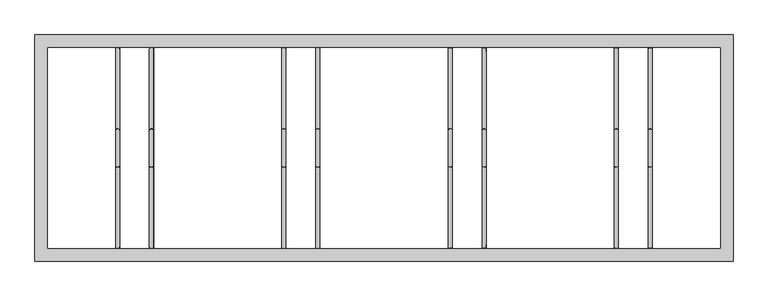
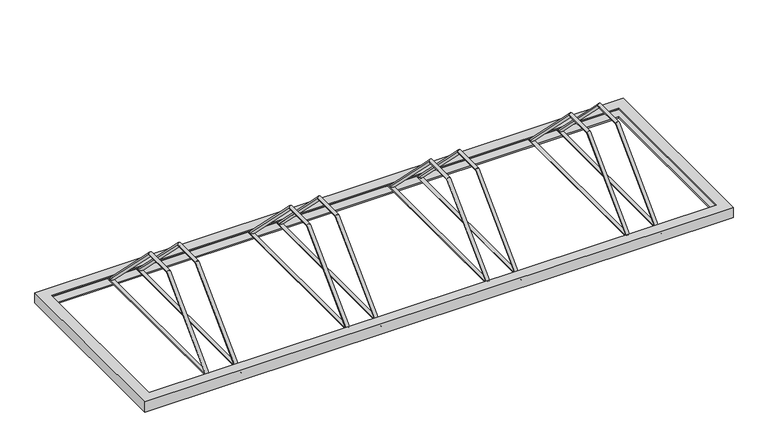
"""IFC4 building model written with IfcOpenShell, lengths in millimetres: furniture geometry, 6.4 Bicicletero chico : 6.4 Bicicletero chico."""

from ifc_helpers import new_model, si_unit, point, frame, frame_2d, origin, place, context, project, spatial, circle_curve, ellipse_curve, trimmed, segment, composite_curve, outline, extrude, faceted_brep, source, transform, mapped, element, save
from ifc_brep_helpers import plane_surface, cylinder_surface, advanced_brep


def furniture_a2313781(model_context):
    return source(origin(), model_context, "Body", "SolidModel", [
        advanced_brep(
        [(344.6360769, -637.8973593, 24.3383166), (356.6360769, -637.8973593, 24.3383166), (344.6360769, -395.3726807, 266.8629952), (356.6360769, -395.3726807, 266.8629952), (344.6360769, -285.3442008, 266.8629952), (356.6360769, -285.3442008, 266.8629952), (344.6360769, -43.1497206, 24.668515), (356.6360769, -43.1497206, 24.668515)],
        [
            (0, 1, circle_curve(frame((350.6360769, -637.8973593, 24.3383166), z_axis=(0.0, -0.7071067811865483, -0.7071067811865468), x_axis=(1.0, 0.0, 0.0)), 6.0)),
            (1, 0, circle_curve(frame((350.6360769, -637.8973593, 24.3383166), z_axis=(0.0, -0.7071067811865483, -0.7071067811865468), x_axis=(1.0, 0.0, 0.0)), 6.0)),
            (0, 2),
            (2, 3, ellipse_curve(frame((350.6360769, -395.3726807, 266.8629952), z_axis=(0.0, -0.9238795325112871, -0.38268343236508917), x_axis=(0.0, 0.38268343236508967, -0.923879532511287)), 6.4943532, 6.0)),
            (3, 1),
            (3, 2, ellipse_curve(frame((350.6360769, -395.3726807, 266.8629952), z_axis=(0.0, -0.9238795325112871, -0.38268343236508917), x_axis=(0.0, 0.38268343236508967, -0.923879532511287)), 6.4943532, 6.0)),
            (2, 4),
            (4, 5, ellipse_curve(frame((350.6360769, -285.3442008, 266.8629952), z_axis=(0.0, -0.9238795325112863, 0.382683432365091), x_axis=(0.0, -0.38268343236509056, -0.9238795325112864)), 6.4943532, 6.0)),
            (5, 3),
            (5, 4, ellipse_curve(frame((350.6360769, -285.3442008, 266.8629952), z_axis=(0.0, -0.9238795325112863, 0.382683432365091), x_axis=(0.0, -0.38268343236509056, -0.9238795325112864)), 6.4943532, 6.0)),
            (6, 7, circle_curve(frame((350.6360769, -43.1497206, 24.668515), z_axis=(0.0, 0.7071067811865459, -0.7071067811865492), x_axis=(1.0, 0.0, 0.0)), 6.0)),
            (7, 6, circle_curve(frame((350.6360769, -43.1497206, 24.668515), z_axis=(0.0, 0.7071067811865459, -0.7071067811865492), x_axis=(1.0, 0.0, 0.0)), 6.0)),
            (4, 6),
            (7, 5),
        ],
        [
            plane_surface(frame((106.3960769, -642.14, 28.5809573), z_axis=(0.0, -0.7071067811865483, -0.7071067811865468), x_axis=(1.0, 0.0, 0.0))),
            cylinder_surface(frame((350.6360769, -637.8973593, 24.3383166), z_axis=(0.0, -0.7071067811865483, -0.7071067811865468), x_axis=(1.0, 0.0, 0.0)), 6.0),
            cylinder_surface(frame((350.6360769, -397.8579621, 266.8629952), z_axis=(0.0, -1.0, 0.0), x_axis=(1.0, 0.0, 0.0)), 6.0),
            plane_surface(frame((106.3960769, -38.9070799, 28.9111557), z_axis=(0.0, 0.707106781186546, -0.7071067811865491), x_axis=(1.0, 0.0, 0.0))),
            cylinder_surface(frame((350.6360769, -287.1015601, 268.6203545), z_axis=(0.0, -0.7071067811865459, 0.7071067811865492), x_axis=(1.0, 0.0, 0.0)), 6.0),
        ],
        [
            (0, [[1, 2]]),
            (1, [[-1, 3, 4, 5]]),
            (1, [[-2, -5, 6, -3]]),
            (2, [[-4, 7, 8, 9]]),
            (2, [[-6, -9, 10, -7]]),
            (3, [[11, 12]]),
            (4, [[-8, 13, -12, 14]]),
            (4, [[-10, -14, -11, -13]]),
        ],
    ),
        advanced_brep(
        [(242.5, -637.8973593, 24.3383166), (254.5, -637.8973593, 24.3383166), (242.5, -395.3726807, 266.8629952), (254.5, -395.3726807, 266.8629952), (242.5, -285.3451581, 266.8629952), (254.5, -285.3451581, 266.8629952), (242.5, -43.1506779, 24.668515), (254.5, -43.1506779, 24.668515)],
        [
            (0, 1, circle_curve(frame((248.5, -637.8973593, 24.3383166), z_axis=(0.0, -0.7071067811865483, -0.7071067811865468), x_axis=(1.0, 0.0, 0.0)), 6.0)),
            (1, 0, circle_curve(frame((248.5, -637.8973593, 24.3383166), z_axis=(0.0, -0.7071067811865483, -0.7071067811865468), x_axis=(1.0, 0.0, 0.0)), 6.0)),
            (0, 2),
            (2, 3, ellipse_curve(frame((248.5, -395.3726807, 266.8629952), z_axis=(0.0, -0.9238795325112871, -0.38268343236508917), x_axis=(0.0, 0.38268343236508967, -0.923879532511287)), 6.4943532, 6.0)),
            (3, 1),
            (3, 2, ellipse_curve(frame((248.5, -395.3726807, 266.8629952), z_axis=(0.0, -0.9238795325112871, -0.38268343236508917), x_axis=(0.0, 0.38268343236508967, -0.923879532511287)), 6.4943532, 6.0)),
            (2, 4),
            (4, 5, ellipse_curve(frame((248.5, -285.3451581, 266.8629952), z_axis=(0.0, -0.9238795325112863, 0.382683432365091), x_axis=(0.0, -0.38268343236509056, -0.9238795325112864)), 6.4943532, 6.0)),
            (5, 3),
            (5, 4, ellipse_curve(frame((248.5, -285.3451581, 266.8629952), z_axis=(0.0, -0.9238795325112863, 0.382683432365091), x_axis=(0.0, -0.38268343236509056, -0.9238795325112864)), 6.4943532, 6.0)),
            (6, 7, circle_curve(frame((248.5, -43.1506779, 24.668515), z_axis=(0.0, 0.7071067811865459, -0.7071067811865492), x_axis=(1.0, 0.0, 0.0)), 6.0)),
            (7, 6, circle_curve(frame((248.5, -43.1506779, 24.668515), z_axis=(0.0, 0.7071067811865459, -0.7071067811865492), x_axis=(1.0, 0.0, 0.0)), 6.0)),
            (4, 6),
            (7, 5),
        ],
        [
            plane_surface(frame((4.26, -642.14, 28.5809573), z_axis=(0.0, -0.7071067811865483, -0.7071067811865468), x_axis=(1.0, 0.0, 0.0))),
            cylinder_surface(frame((248.5, -637.8973593, 24.3383166), z_axis=(0.0, -0.7071067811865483, -0.7071067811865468), x_axis=(1.0, 0.0, 0.0)), 6.0),
            cylinder_surface(frame((248.5, -397.8579621, 266.8629952), z_axis=(0.0, -1.0, 0.0), x_axis=(1.0, 0.0, 0.0)), 6.0),
            plane_surface(frame((4.26, -38.9080372, 28.9111557), z_axis=(0.0, 0.707106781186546, -0.7071067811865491), x_axis=(1.0, 0.0, 0.0))),
            cylinder_surface(frame((248.5, -287.1025174, 268.6203545), z_axis=(0.0, -0.7071067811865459, 0.7071067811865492), x_axis=(1.0, 0.0, 0.0)), 6.0),
        ],
        [
            (0, [[1, 2]]),
            (1, [[-1, 3, 4, 5]]),
            (1, [[-2, -5, 6, -3]]),
            (2, [[-4, 7, 8, 9]]),
            (2, [[-6, -9, 10, -7]]),
            (3, [[11, 12]]),
            (4, [[-8, 13, -12, 14]]),
            (4, [[-10, -14, -11, -13]]),
        ],
    ),
        advanced_brep(
        [(844.7721537, -637.8973593, 24.3383166), (856.7721537, -637.8973593, 24.3383166), (844.7721537, -395.3726807, 266.8629952), (856.7721537, -395.3726807, 266.8629952), (844.7721537, -285.3442008, 266.8629952), (856.7721537, -285.3442008, 266.8629952), (844.7721537, -43.1497206, 24.668515), (856.7721537, -43.1497206, 24.668515)],
        [
            (0, 1, circle_curve(frame((850.7721537, -637.8973593, 24.3383166), z_axis=(0.0, -0.7071067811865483, -0.7071067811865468), x_axis=(1.0, 0.0, 0.0)), 6.0)),
            (1, 0, circle_curve(frame((850.7721537, -637.8973593, 24.3383166), z_axis=(0.0, -0.7071067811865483, -0.7071067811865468), x_axis=(1.0, 0.0, 0.0)), 6.0)),
            (0, 2),
            (2, 3, ellipse_curve(frame((850.7721537, -395.3726807, 266.8629952), z_axis=(0.0, -0.9238795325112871, -0.38268343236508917), x_axis=(0.0, 0.38268343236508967, -0.923879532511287)), 6.4943532, 6.0)),
            (3, 1),
            (3, 2, ellipse_curve(frame((850.7721537, -395.3726807, 266.8629952), z_axis=(0.0, -0.9238795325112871, -0.38268343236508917), x_axis=(0.0, 0.38268343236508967, -0.923879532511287)), 6.4943532, 6.0)),
            (2, 4),
            (4, 5, ellipse_curve(frame((850.7721537, -285.3442008, 266.8629952), z_axis=(0.0, -0.9238795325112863, 0.382683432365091), x_axis=(0.0, -0.38268343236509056, -0.9238795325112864)), 6.4943532, 6.0)),
            (5, 3),
            (5, 4, ellipse_curve(frame((850.7721537, -285.3442008, 266.8629952), z_axis=(0.0, -0.9238795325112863, 0.382683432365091), x_axis=(0.0, -0.38268343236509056, -0.9238795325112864)), 6.4943532, 6.0)),
            (6, 7, circle_curve(frame((850.7721537, -43.1497206, 24.668515), z_axis=(0.0, 0.7071067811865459, -0.7071067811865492), x_axis=(1.0, 0.0, 0.0)), 6.0)),
            (7, 6, circle_curve(frame((850.7721537, -43.1497206, 24.668515), z_axis=(0.0, 0.7071067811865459, -0.7071067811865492), x_axis=(1.0, 0.0, 0.0)), 6.0)),
            (4, 6),
            (7, 5),
        ],
        [
            plane_surface(frame((606.5321537, -642.14, 28.5809573), z_axis=(0.0, -0.7071067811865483, -0.7071067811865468), x_axis=(1.0, 0.0, 0.0))),
            cylinder_surface(frame((850.7721537, -637.8973593, 24.3383166), z_axis=(0.0, -0.7071067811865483, -0.7071067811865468), x_axis=(1.0, 0.0, 0.0)), 6.0),
            cylinder_surface(frame((850.7721537, -397.8579621, 266.8629952), z_axis=(0.0, -1.0, 0.0), x_axis=(1.0, 0.0, 0.0)), 6.0),
            plane_surface(frame((606.5321537, -38.9070799, 28.9111557), z_axis=(0.0, 0.707106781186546, -0.7071067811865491), x_axis=(1.0, 0.0, 0.0))),
            cylinder_surface(frame((850.7721537, -287.1015601, 268.6203545), z_axis=(0.0, -0.7071067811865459, 0.7071067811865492), x_axis=(1.0, 0.0, 0.0)), 6.0),
        ],
        [
            (0, [[1, 2]]),
            (1, [[-1, 3, 4, 5]]),
            (1, [[-2, -5, 6, -3]]),
            (2, [[-4, 7, 8, 9]]),
            (2, [[-6, -9, 10, -7]]),
            (3, [[11, 12]]),
            (4, [[-8, 13, -12, 14]]),
            (4, [[-10, -14, -11, -13]]),
        ],
    ),
        advanced_brep(
        [(742.6360769, -637.8973593, 24.3383166), (754.6360769, -637.8973593, 24.3383166), (742.6360769, -395.3726807, 266.8629952), (754.6360769, -395.3726807, 266.8629952), (742.6360769, -285.3451581, 266.8629952), (754.6360769, -285.3451581, 266.8629952), (742.6360769, -43.1506779, 24.668515), (754.6360769, -43.1506779, 24.668515)],
        [
            (0, 1, circle_curve(frame((748.6360769, -637.8973593, 24.3383166), z_axis=(0.0, -0.7071067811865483, -0.7071067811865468), x_axis=(1.0, 0.0, 0.0)), 6.0)),
            (1, 0, circle_curve(frame((748.6360769, -637.8973593, 24.3383166), z_axis=(0.0, -0.7071067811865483, -0.7071067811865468), x_axis=(1.0, 0.0, 0.0)), 6.0)),
            (0, 2),
            (2, 3, ellipse_curve(frame((748.6360769, -395.3726807, 266.8629952), z_axis=(0.0, -0.9238795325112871, -0.38268343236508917), x_axis=(0.0, 0.38268343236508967, -0.923879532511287)), 6.4943532, 6.0)),
            (3, 1),
            (3, 2, ellipse_curve(frame((748.6360769, -395.3726807, 266.8629952), z_axis=(0.0, -0.9238795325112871, -0.38268343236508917), x_axis=(0.0, 0.38268343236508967, -0.923879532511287)), 6.4943532, 6.0)),
            (2, 4),
            (4, 5, ellipse_curve(frame((748.6360769, -285.3451581, 266.8629952), z_axis=(0.0, -0.9238795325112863, 0.382683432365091), x_axis=(0.0, -0.38268343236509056, -0.9238795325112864)), 6.4943532, 6.0)),
            (5, 3),
            (5, 4, ellipse_curve(frame((748.6360769, -285.3451581, 266.8629952), z_axis=(0.0, -0.9238795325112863, 0.382683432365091), x_axis=(0.0, -0.38268343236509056, -0.9238795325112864)), 6.4943532, 6.0)),
            (6, 7, circle_curve(frame((748.6360769, -43.1506779, 24.668515), z_axis=(0.0, 0.7071067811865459, -0.7071067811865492), x_axis=(1.0, 0.0, 0.0)), 6.0)),
            (7, 6, circle_curve(frame((748.6360769, -43.1506779, 24.668515), z_axis=(0.0, 0.7071067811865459, -0.7071067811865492), x_axis=(1.0, 0.0, 0.0)), 6.0)),
            (4, 6),
            (7, 5),
        ],
        [
            plane_surface(frame((504.3960769, -642.14, 28.5809573), z_axis=(0.0, -0.7071067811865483, -0.7071067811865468), x_axis=(1.0, 0.0, 0.0))),
            cylinder_surface(frame((748.6360769, -637.8973593, 24.3383166), z_axis=(0.0, -0.7071067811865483, -0.7071067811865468), x_axis=(1.0, 0.0, 0.0)), 6.0),
            cylinder_surface(frame((748.6360769, -397.8579621, 266.8629952), z_axis=(0.0, -1.0, 0.0), x_axis=(1.0, 0.0, 0.0)), 6.0),
            plane_surface(frame((504.3960769, -38.9080372, 28.9111557), z_axis=(0.0, 0.707106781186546, -0.7071067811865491), x_axis=(1.0, 0.0, 0.0))),
            cylinder_surface(frame((748.6360769, -287.1025174, 268.6203545), z_axis=(0.0, -0.7071067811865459, 0.7071067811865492), x_axis=(1.0, 0.0, 0.0)), 6.0),
        ],
        [
            (0, [[1, 2]]),
            (1, [[-1, 3, 4, 5]]),
            (1, [[-2, -5, 6, -3]]),
            (2, [[-4, 7, 8, 9]]),
            (2, [[-6, -9, 10, -7]]),
            (3, [[11, 12]]),
            (4, [[-8, 13, -12, 14]]),
            (4, [[-10, -14, -11, -13]]),
        ],
    ),
        extrude(outline(composite_curve([segment(trimmed(circle_curve(frame_2d((22.6047539, 1851.2207658)), 6.0), [point((22.6047539, 1845.2207658))], [point((22.6047539, 1857.2207658))], False, "CARTESIAN"), True, "CONTINUOUS"), segment(trimmed(circle_curve(frame_2d((22.6047539, 1851.2207658)), 6.0), [point((22.6047539, 1857.2207658))], [point((22.6047539, 1845.2207658))], False, "CARTESIAN"), True, "CONTINUOUS")], self_intersect=False)), frame((0.0, -675.24, 0.0), z_axis=(0.0, 1.0, 0.0), x_axis=(0.0, 0.0, 1.0)), (0.0, 0.0, 1.0), 670.48),
        advanced_brep(
        [(1845.0443074, -637.8973593, 24.3383166), (1857.0443074, -637.8973593, 24.3383166), (1845.0443074, -395.3726807, 266.8629952), (1857.0443074, -395.3726807, 266.8629952), (1845.0443074, -285.3432435, 266.8629952), (1857.0443074, -285.3432435, 266.8629952), (1845.0443074, -43.1487633, 24.668515), (1857.0443074, -43.1487633, 24.668515)],
        [
            (0, 1, circle_curve(frame((1851.0443074, -637.8973593, 24.3383166), z_axis=(0.0, -0.7071067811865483, -0.7071067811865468), x_axis=(1.0, 0.0, 0.0)), 6.0)),
            (1, 0, circle_curve(frame((1851.0443074, -637.8973593, 24.3383166), z_axis=(0.0, -0.7071067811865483, -0.7071067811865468), x_axis=(1.0, 0.0, 0.0)), 6.0)),
            (0, 2),
            (2, 3, ellipse_curve(frame((1851.0443074, -395.3726807, 266.8629952), z_axis=(0.0, -0.9238795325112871, -0.38268343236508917), x_axis=(0.0, 0.38268343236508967, -0.923879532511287)), 6.4943532, 6.0)),
            (3, 1),
            (3, 2, ellipse_curve(frame((1851.0443074, -395.3726807, 266.8629952), z_axis=(0.0, -0.9238795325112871, -0.38268343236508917), x_axis=(0.0, 0.38268343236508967, -0.923879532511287)), 6.4943532, 6.0)),
            (2, 4),
            (4, 5, ellipse_curve(frame((1851.0443074, -285.3432435, 266.8629952), z_axis=(0.0, -0.9238795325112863, 0.382683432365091), x_axis=(0.0, -0.38268343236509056, -0.9238795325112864)), 6.4943532, 6.0)),
            (5, 3),
            (5, 4, ellipse_curve(frame((1851.0443074, -285.3432435, 266.8629952), z_axis=(0.0, -0.9238795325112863, 0.382683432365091), x_axis=(0.0, -0.38268343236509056, -0.9238795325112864)), 6.4943532, 6.0)),
            (6, 7, circle_curve(frame((1851.0443074, -43.1487633, 24.668515), z_axis=(0.0, 0.7071067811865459, -0.7071067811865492), x_axis=(1.0, 0.0, 0.0)), 6.0)),
            (7, 6, circle_curve(frame((1851.0443074, -43.1487633, 24.668515), z_axis=(0.0, 0.7071067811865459, -0.7071067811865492), x_axis=(1.0, 0.0, 0.0)), 6.0)),
            (4, 6),
            (7, 5),
        ],
        [
            plane_surface(frame((1606.8043075, -642.14, 28.5809573), z_axis=(0.0, -0.7071067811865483, -0.7071067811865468), x_axis=(1.0, 0.0, 0.0))),
            cylinder_surface(frame((1851.0443074, -637.8973593, 24.3383166), z_axis=(0.0, -0.7071067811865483, -0.7071067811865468), x_axis=(1.0, 0.0, 0.0)), 6.0),
            cylinder_surface(frame((1851.0443074, -397.8579621, 266.8629952), z_axis=(0.0, -1.0, 0.0), x_axis=(1.0, 0.0, 0.0)), 6.0),
            plane_surface(frame((1606.8043075, -38.9061226, 28.9111557), z_axis=(0.0, 0.707106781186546, -0.7071067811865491), x_axis=(1.0, 0.0, 0.0))),
            cylinder_surface(frame((1851.0443074, -287.1006028, 268.6203545), z_axis=(0.0, -0.7071067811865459, 0.7071067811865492), x_axis=(1.0, 0.0, 0.0)), 6.0),
        ],
        [
            (0, [[1, 2]]),
            (1, [[-1, 3, 4, 5]]),
            (1, [[-2, -5, 6, -3]]),
            (2, [[-4, 7, 8, 9]]),
            (2, [[-6, -9, 10, -7]]),
            (3, [[11, 12]]),
            (4, [[-8, 13, -12, 14]]),
            (4, [[-10, -14, -11, -13]]),
        ],
    ),
        extrude(outline(composite_curve([segment(trimmed(circle_curve(frame_2d((22.6047539, 1749.084689)), 6.0), [point((22.6047539, 1743.084689))], [point((22.6047539, 1755.084689))], False, "CARTESIAN"), True, "CONTINUOUS"), segment(trimmed(circle_curve(frame_2d((22.6047539, 1749.084689)), 6.0), [point((22.6047539, 1755.084689))], [point((22.6047539, 1743.084689))], False, "CARTESIAN"), True, "CONTINUOUS")], self_intersect=False)), frame((0.0, -675.24, 0.0), z_axis=(0.0, 1.0, 0.0), x_axis=(0.0, 0.0, 1.0)), (0.0, 0.0, 1.0), 670.48),
        advanced_brep(
        [(1742.9082306, -637.8973593, 24.3383166), (1754.9082306, -637.8973593, 24.3383166), (1742.9082306, -395.3726807, 266.8629952), (1754.9082306, -395.3726807, 266.8629952), (1742.9082306, -285.3432435, 266.8629952), (1754.9082306, -285.3432435, 266.8629952), (1742.9082306, -43.1487633, 24.668515), (1754.9082306, -43.1487633, 24.668515)],
        [
            (0, 1, circle_curve(frame((1748.9082306, -637.8973593, 24.3383166), z_axis=(0.0, -0.7071067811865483, -0.7071067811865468), x_axis=(1.0, 0.0, 0.0)), 6.0)),
            (1, 0, circle_curve(frame((1748.9082306, -637.8973593, 24.3383166), z_axis=(0.0, -0.7071067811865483, -0.7071067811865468), x_axis=(1.0, 0.0, 0.0)), 6.0)),
            (0, 2),
            (2, 3, ellipse_curve(frame((1748.9082306, -395.3726807, 266.8629952), z_axis=(0.0, -0.9238795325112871, -0.38268343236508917), x_axis=(0.0, 0.38268343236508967, -0.923879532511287)), 6.4943532, 6.0)),
            (3, 1),
            (3, 2, ellipse_curve(frame((1748.9082306, -395.3726807, 266.8629952), z_axis=(0.0, -0.9238795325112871, -0.38268343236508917), x_axis=(0.0, 0.38268343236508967, -0.923879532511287)), 6.4943532, 6.0)),
            (2, 4),
            (4, 5, ellipse_curve(frame((1748.9082306, -285.3432435, 266.8629952), z_axis=(0.0, -0.9238795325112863, 0.382683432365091), x_axis=(0.0, -0.38268343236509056, -0.9238795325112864)), 6.4943532, 6.0)),
            (5, 3),
            (5, 4, ellipse_curve(frame((1748.9082306, -285.3432435, 266.8629952), z_axis=(0.0, -0.9238795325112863, 0.382683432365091), x_axis=(0.0, -0.38268343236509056, -0.9238795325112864)), 6.4943532, 6.0)),
            (6, 7, circle_curve(frame((1748.9082306, -43.1487633, 24.668515), z_axis=(0.0, 0.7071067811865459, -0.7071067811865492), x_axis=(1.0, 0.0, 0.0)), 6.0)),
            (7, 6, circle_curve(frame((1748.9082306, -43.1487633, 24.668515), z_axis=(0.0, 0.7071067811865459, -0.7071067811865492), x_axis=(1.0, 0.0, 0.0)), 6.0)),
            (4, 6),
            (7, 5),
        ],
        [
            plane_surface(frame((1504.6682306, -642.14, 28.5809573), z_axis=(0.0, -0.7071067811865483, -0.7071067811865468), x_axis=(1.0, 0.0, 0.0))),
            cylinder_surface(frame((1748.9082306, -637.8973593, 24.3383166), z_axis=(0.0, -0.7071067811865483, -0.7071067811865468), x_axis=(1.0, 0.0, 0.0)), 6.0),
            cylinder_surface(frame((1748.9082306, -397.8579621, 266.8629952), z_axis=(0.0, -1.0, 0.0), x_axis=(1.0, 0.0, 0.0)), 6.0),
            plane_surface(frame((1504.6682306, -38.9061226, 28.9111557), z_axis=(0.0, 0.707106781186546, -0.7071067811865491), x_axis=(1.0, 0.0, 0.0))),
            cylinder_surface(frame((1748.9082306, -287.1006028, 268.6203545), z_axis=(0.0, -0.7071067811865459, 0.7071067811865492), x_axis=(1.0, 0.0, 0.0)), 6.0),
        ],
        [
            (0, [[1, 2]]),
            (1, [[-1, 3, 4, 5]]),
            (1, [[-2, -5, 6, -3]]),
            (2, [[-4, 7, 8, 9]]),
            (2, [[-6, -9, 10, -7]]),
            (3, [[11, 12]]),
            (4, [[-8, 13, -12, 14]]),
            (4, [[-10, -14, -11, -13]]),
        ],
    ),
        extrude(outline(composite_curve([segment(trimmed(circle_curve(frame_2d((22.6047539, 1351.084689)), 6.0), [point((22.6047539, 1345.084689))], [point((22.6047539, 1357.084689))], False, "CARTESIAN"), True, "CONTINUOUS"), segment(trimmed(circle_curve(frame_2d((22.6047539, 1351.084689)), 6.0), [point((22.6047539, 1357.084689))], [point((22.6047539, 1345.084689))], False, "CARTESIAN"), True, "CONTINUOUS")], self_intersect=False)), frame((0.0, -675.24, 0.0), z_axis=(0.0, 1.0, 0.0), x_axis=(0.0, 0.0, 1.0)), (0.0, 0.0, 1.0), 670.48),
        advanced_brep(
        [(1344.9082306, -637.8973593, 24.3383166), (1356.9082306, -637.8973593, 24.3383166), (1344.9082306, -395.3726807, 266.8629952), (1356.9082306, -395.3726807, 266.8629952), (1344.9082306, -285.3442008, 266.8629952), (1356.9082306, -285.3442008, 266.8629952), (1344.9082306, -43.1497206, 24.668515), (1356.9082306, -43.1497206, 24.668515)],
        [
            (0, 1, circle_curve(frame((1350.9082306, -637.8973593, 24.3383166), z_axis=(0.0, -0.7071067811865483, -0.7071067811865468), x_axis=(1.0, 0.0, 0.0)), 6.0)),
            (1, 0, circle_curve(frame((1350.9082306, -637.8973593, 24.3383166), z_axis=(0.0, -0.7071067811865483, -0.7071067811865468), x_axis=(1.0, 0.0, 0.0)), 6.0)),
            (0, 2),
            (2, 3, ellipse_curve(frame((1350.9082306, -395.3726807, 266.8629952), z_axis=(0.0, -0.9238795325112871, -0.38268343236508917), x_axis=(0.0, 0.38268343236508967, -0.923879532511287)), 6.4943532, 6.0)),
            (3, 1),
            (3, 2, ellipse_curve(frame((1350.9082306, -395.3726807, 266.8629952), z_axis=(0.0, -0.9238795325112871, -0.38268343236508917), x_axis=(0.0, 0.38268343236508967, -0.923879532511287)), 6.4943532, 6.0)),
            (2, 4),
            (4, 5, ellipse_curve(frame((1350.9082306, -285.3442008, 266.8629952), z_axis=(0.0, -0.9238795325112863, 0.382683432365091), x_axis=(0.0, -0.38268343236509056, -0.9238795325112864)), 6.4943532, 6.0)),
            (5, 3),
            (5, 4, ellipse_curve(frame((1350.9082306, -285.3442008, 266.8629952), z_axis=(0.0, -0.9238795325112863, 0.382683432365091), x_axis=(0.0, -0.38268343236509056, -0.9238795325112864)), 6.4943532, 6.0)),
            (6, 7, circle_curve(frame((1350.9082306, -43.1497206, 24.668515), z_axis=(0.0, 0.7071067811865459, -0.7071067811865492), x_axis=(1.0, 0.0, 0.0)), 6.0)),
            (7, 6, circle_curve(frame((1350.9082306, -43.1497206, 24.668515), z_axis=(0.0, 0.7071067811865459, -0.7071067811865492), x_axis=(1.0, 0.0, 0.0)), 6.0)),
            (4, 6),
            (7, 5),
        ],
        [
            plane_surface(frame((1106.6682306, -642.14, 28.5809573), z_axis=(0.0, -0.7071067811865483, -0.7071067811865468), x_axis=(1.0, 0.0, 0.0))),
            cylinder_surface(frame((1350.9082306, -637.8973593, 24.3383166), z_axis=(0.0, -0.7071067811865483, -0.7071067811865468), x_axis=(1.0, 0.0, 0.0)), 6.0),
            cylinder_surface(frame((1350.9082306, -397.8579621, 266.8629952), z_axis=(0.0, -1.0, 0.0), x_axis=(1.0, 0.0, 0.0)), 6.0),
            plane_surface(frame((1106.6682306, -38.9070799, 28.9111557), z_axis=(0.0, 0.707106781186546, -0.7071067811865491), x_axis=(1.0, 0.0, 0.0))),
            cylinder_surface(frame((1350.9082306, -287.1015601, 268.6203545), z_axis=(0.0, -0.7071067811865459, 0.7071067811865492), x_axis=(1.0, 0.0, 0.0)), 6.0),
        ],
        [
            (0, [[1, 2]]),
            (1, [[-1, 3, 4, 5]]),
            (1, [[-2, -5, 6, -3]]),
            (2, [[-4, 7, 8, 9]]),
            (2, [[-6, -9, 10, -7]]),
            (3, [[11, 12]]),
            (4, [[-8, 13, -12, 14]]),
            (4, [[-10, -14, -11, -13]]),
        ],
    ),
        extrude(outline(composite_curve([segment(trimmed(circle_curve(frame_2d((22.6047539, 1248.9486121)), 6.0), [point((22.6047539, 1242.9486121))], [point((22.6047539, 1254.9486121))], False, "CARTESIAN"), True, "CONTINUOUS"), segment(trimmed(circle_curve(frame_2d((22.6047539, 1248.9486121)), 6.0), [point((22.6047539, 1254.9486121))], [point((22.6047539, 1242.9486121))], False, "CARTESIAN"), True, "CONTINUOUS")], self_intersect=False)), frame((0.0, -675.24, 0.0), z_axis=(0.0, 1.0, 0.0), x_axis=(0.0, 0.0, 1.0)), (0.0, 0.0, 1.0), 670.48),
        advanced_brep(
        [(1242.7721537, -637.8973593, 24.3383166), (1254.7721537, -637.8973593, 24.3383166), (1242.7721537, -395.3726807, 266.8629952), (1254.7721537, -395.3726807, 266.8629952), (1242.7721537, -285.3451581, 266.8629952), (1254.7721537, -285.3451581, 266.8629952), (1242.7721537, -43.1506779, 24.668515), (1254.7721537, -43.1506779, 24.668515)],
        [
            (0, 1, circle_curve(frame((1248.7721537, -637.8973593, 24.3383166), z_axis=(0.0, -0.7071067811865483, -0.7071067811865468), x_axis=(1.0, 0.0, 0.0)), 6.0)),
            (1, 0, circle_curve(frame((1248.7721537, -637.8973593, 24.3383166), z_axis=(0.0, -0.7071067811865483, -0.7071067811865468), x_axis=(1.0, 0.0, 0.0)), 6.0)),
            (0, 2),
            (2, 3, ellipse_curve(frame((1248.7721537, -395.3726807, 266.8629952), z_axis=(0.0, -0.9238795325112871, -0.38268343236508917), x_axis=(0.0, 0.38268343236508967, -0.923879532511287)), 6.4943532, 6.0)),
            (3, 1),
            (3, 2, ellipse_curve(frame((1248.7721537, -395.3726807, 266.8629952), z_axis=(0.0, -0.9238795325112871, -0.38268343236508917), x_axis=(0.0, 0.38268343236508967, -0.923879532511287)), 6.4943532, 6.0)),
            (2, 4),
            (4, 5, ellipse_curve(frame((1248.7721537, -285.3451581, 266.8629952), z_axis=(0.0, -0.9238795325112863, 0.382683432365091), x_axis=(0.0, -0.38268343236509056, -0.9238795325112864)), 6.4943532, 6.0)),
            (5, 3),
            (5, 4, ellipse_curve(frame((1248.7721537, -285.3451581, 266.8629952), z_axis=(0.0, -0.9238795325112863, 0.382683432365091), x_axis=(0.0, -0.38268343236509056, -0.9238795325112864)), 6.4943532, 6.0)),
            (6, 7, circle_curve(frame((1248.7721537, -43.1506779, 24.668515), z_axis=(0.0, 0.7071067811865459, -0.7071067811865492), x_axis=(1.0, 0.0, 0.0)), 6.0)),
            (7, 6, circle_curve(frame((1248.7721537, -43.1506779, 24.668515), z_axis=(0.0, 0.7071067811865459, -0.7071067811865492), x_axis=(1.0, 0.0, 0.0)), 6.0)),
            (4, 6),
            (7, 5),
        ],
        [
            plane_surface(frame((1004.5321537, -642.14, 28.5809573), z_axis=(0.0, -0.7071067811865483, -0.7071067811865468), x_axis=(1.0, 0.0, 0.0))),
            cylinder_surface(frame((1248.7721537, -637.8973593, 24.3383166), z_axis=(0.0, -0.7071067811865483, -0.7071067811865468), x_axis=(1.0, 0.0, 0.0)), 6.0),
            cylinder_surface(frame((1248.7721537, -397.8579621, 266.8629952), z_axis=(0.0, -1.0, 0.0), x_axis=(1.0, 0.0, 0.0)), 6.0),
            plane_surface(frame((1004.5321537, -38.9080372, 28.9111557), z_axis=(0.0, 0.707106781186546, -0.7071067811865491), x_axis=(1.0, 0.0, 0.0))),
            cylinder_surface(frame((1248.7721537, -287.1025174, 268.6203545), z_axis=(0.0, -0.7071067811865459, 0.7071067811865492), x_axis=(1.0, 0.0, 0.0)), 6.0),
        ],
        [
            (0, [[1, 2]]),
            (1, [[-1, 3, 4, 5]]),
            (1, [[-2, -5, 6, -3]]),
            (2, [[-4, 7, 8, 9]]),
            (2, [[-6, -9, 10, -7]]),
            (3, [[11, 12]]),
            (4, [[-8, 13, -12, 14]]),
            (4, [[-10, -14, -11, -13]]),
        ],
    ),
        extrude(outline(composite_curve([segment(trimmed(circle_curve(frame_2d((22.6047539, 850.9486121)), 6.0), [point((22.6047539, 844.9486121))], [point((22.6047539, 856.9486121))], False, "CARTESIAN"), True, "CONTINUOUS"), segment(trimmed(circle_curve(frame_2d((22.6047539, 850.9486121)), 6.0), [point((22.6047539, 856.9486121))], [point((22.6047539, 844.9486121))], False, "CARTESIAN"), True, "CONTINUOUS")], self_intersect=False)), frame((0.0, -675.24, 0.0), z_axis=(0.0, 1.0, 0.0), x_axis=(0.0, 0.0, 1.0)), (0.0, 0.0, 1.0), 670.48),
        extrude(outline(composite_curve([segment(trimmed(circle_curve(frame_2d((22.6047539, 748.8125353)), 6.0), [point((22.6047539, 742.8125353))], [point((22.6047539, 754.8125353))], False, "CARTESIAN"), True, "CONTINUOUS"), segment(trimmed(circle_curve(frame_2d((22.6047539, 748.8125353)), 6.0), [point((22.6047539, 754.8125353))], [point((22.6047539, 742.8125353))], False, "CARTESIAN"), True, "CONTINUOUS")], self_intersect=False)), frame((0.0, -675.24, 0.0), z_axis=(0.0, 1.0, 0.0), x_axis=(0.0, 0.0, 1.0)), (0.0, 0.0, 1.0), 670.48),
        extrude(outline(composite_curve([segment(trimmed(circle_curve(frame_2d((22.6047539, 350.8125353)), 6.0), [point((22.6047539, 344.8125353))], [point((22.6047539, 356.8125353))], False, "CARTESIAN"), True, "CONTINUOUS"), segment(trimmed(circle_curve(frame_2d((22.6047539, 350.8125353)), 6.0), [point((22.6047539, 356.8125353))], [point((22.6047539, 344.8125353))], False, "CARTESIAN"), True, "CONTINUOUS")], self_intersect=False)), frame((0.0, -675.24, 0.0), z_axis=(0.0, 1.0, 0.0), x_axis=(0.0, 0.0, 1.0)), (0.0, 0.0, 1.0), 670.48),
        extrude(outline(composite_curve([segment(trimmed(circle_curve(frame_2d((22.6047539, 248.5012447)), 6.0), [point((22.6047539, 242.5012447))], [point((22.6047539, 254.5012447))], False, "CARTESIAN"), True, "CONTINUOUS"), segment(trimmed(circle_curve(frame_2d((22.6047539, 248.5012447)), 6.0), [point((22.6047539, 254.5012447))], [point((22.6047539, 242.5012447))], False, "CARTESIAN"), True, "CONTINUOUS")], self_intersect=False)), frame((0.0, -675.24, 0.0), z_axis=(0.0, 1.0, 0.0), x_axis=(0.0, 0.0, 1.0)), (0.0, 0.0, 1.0), 670.48),
        faceted_brep([(2061.9, -38.1, 0.0), (2061.9, -38.1, -4.76), (2061.9, -641.9, -4.76), (2061.9, -641.9, 0.0), (2095.24, -4.76, 28.6075435), (2095.24, -4.76, 0.0), (2095.24, -675.24, 0.0), (2095.24, -675.24, 28.6075435), (2061.9, -38.1, 33.34), (2061.9, -38.1, 28.6075435), (2061.9, -641.9, 28.6075435), (2061.9, -641.9, 33.34), (2100.0, 0.0, -4.76), (2100.0, 0.0, 33.34), (2100.0, -680.0, 33.34), (2100.0, -680.0, -4.76), (38.1, -641.9, -4.76), (38.1, -641.9, 0.0), (4.76, -675.24, 0.0), (4.76, -675.24, 28.6075435), (38.1, -641.9, 28.6075435), (38.1, -641.9, 33.34), (0.0, -680.0, 33.34), (0.0, -680.0, -4.76), (38.1, -38.1, -4.76), (38.1, -38.1, 0.0), (4.76, -4.76, 0.0), (4.76, -4.76, 28.6075435), (38.1, -38.1, 28.6075435), (38.1, -38.1, 33.34), (0.0, 0.0, 33.34), (0.0, 0.0, -4.76)], [[[0, 1, 2, 3]], [[4, 5, 6, 7]], [[8, 9, 10, 11]], [[12, 13, 14, 15]], [[3, 2, 16, 17]], [[7, 6, 18, 19]], [[11, 10, 20, 21]], [[15, 14, 22, 23]], [[17, 16, 24, 25]], [[19, 18, 26, 27]], [[21, 20, 28, 29]], [[23, 22, 30, 31]], [[15, 23, 31, 12], [1, 24, 16, 2]], [[25, 24, 1, 0]], [[5, 26, 18, 6], [3, 17, 25, 0]], [[27, 26, 5, 4]], [[7, 19, 27, 4], [9, 28, 20, 10]], [[29, 28, 9, 8]], [[13, 30, 22, 14], [11, 21, 29, 8]], [[31, 30, 13, 12]]]),
    ])


if __name__ == "__main__":
    model = new_model("IFC4")
    model_context = context("Model", 3, world=origin())
    ifc_project = project(units=[si_unit("LENGTHUNIT", "METRE", prefix="MILLI")], contexts=[model_context])
    site = spatial("IfcSite", under=ifc_project)
    building = spatial("IfcBuilding", under=site)
    placement = place(None, origin())
    furniture_shape = furniture_a2313781(model_context)
    element("IfcFurniture", 1, ObjectType="6.4 Bicicletero chico : 6.4 Bicicletero chico", at=placement, inside=building, context=model_context, shape_type="MappedRepresentation", body=[
        mapped(furniture_shape, transform((0.0, 0.0, 0.0), x_axis=(1.0, 0.0, 0.0), y_axis=(0.0, 1.0, 0.0), z_axis=(0.0, 0.0, 1.0))),
    ])
    save(model, "model.ifc")
